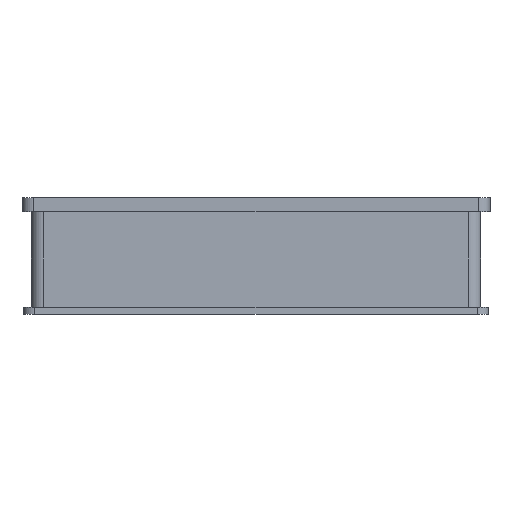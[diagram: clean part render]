
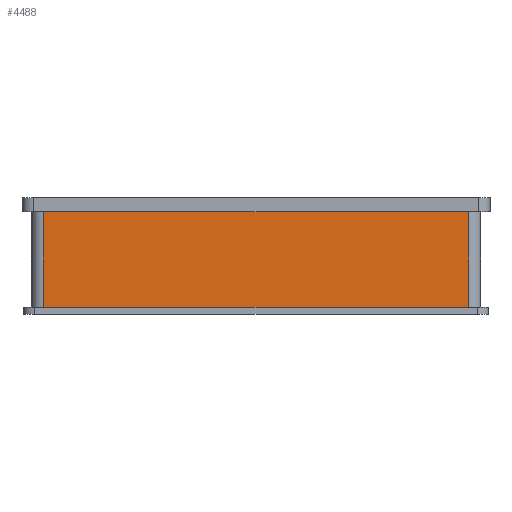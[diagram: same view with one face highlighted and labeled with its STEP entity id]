
A CAD part, left-side view. The second image highlights one B-rep face of the part: STEP entity #4488.
In plain terms, the highlighted planar face has unit normal (-1, 0, 0).
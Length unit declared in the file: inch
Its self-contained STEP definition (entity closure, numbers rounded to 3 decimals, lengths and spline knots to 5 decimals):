
#50=LINE($,#6943,#162);
#72=LINE($,#7736,#184);
#73=LINE($,#7741,#185);
#74=LINE($,#7743,#186);
#162=VECTOR($,#5449,7.16535);
#184=VECTOR($,#6419,1.61417);
#185=VECTOR($,#6426,1.61417);
#186=VECTOR($,#6429,7.16535);
#416=PLANE($,#5126);
#1014=FACE_OUTER_BOUND($,#1586,.T.);
#1586=EDGE_LOOP($,(#3584,#3585,#3586,#3587));
#2088=VERTEX_POINT($,#6940);
#2089=VERTEX_POINT($,#6942);
#2350=VERTEX_POINT($,#7735);
#2351=VERTEX_POINT($,#7739);
#2514=EDGE_CURVE($,#2089,#2088,#50,.T.);
#2788=EDGE_CURVE($,#2089,#2350,#72,.T.);
#2791=EDGE_CURVE($,#2351,#2088,#73,.T.);
#2792=EDGE_CURVE($,#2350,#2351,#74,.T.);
#3584=ORIENTED_EDGE($,*,*,#2788,.F.);
#3585=ORIENTED_EDGE($,*,*,#2514,.T.);
#3586=ORIENTED_EDGE($,*,*,#2791,.F.);
#3587=ORIENTED_EDGE($,*,*,#2792,.F.);
#4488=ADVANCED_FACE($,(#1014),#416,.T.);
#5126=AXIS2_PLACEMENT_3D($,#7742,#6427,#6428);
#5449=DIRECTION($,(0.,1.,0.));
#6419=DIRECTION($,(0.,0.,-1.));
#6426=DIRECTION($,(0.,0.,1.));
#6427=DIRECTION('center_axis',(-1.,0.,0.));
#6428=DIRECTION('ref_axis',(0.,0.,1.));
#6429=DIRECTION($,(0.,1.,0.));
#6940=CARTESIAN_POINT('',(-7.83984,7.5,1.73228));
#6942=CARTESIAN_POINT('',(-7.83984,0.33465,1.73228));
#6943=CARTESIAN_POINT($,(-7.83984,7.69685,1.73228));
#7735=CARTESIAN_POINT('',(-7.83984,0.33465,0.11811));
#7736=CARTESIAN_POINT($,(-7.83984,0.33465,0.11811));
#7739=CARTESIAN_POINT('',(-7.83984,7.5,0.11811));
#7741=CARTESIAN_POINT($,(-7.83984,7.5,0.11811));
#7742=CARTESIAN_POINT('Origin',(-7.83984,0.1378,0.11811));
#7743=CARTESIAN_POINT($,(-7.83984,2.02756,0.11811));
